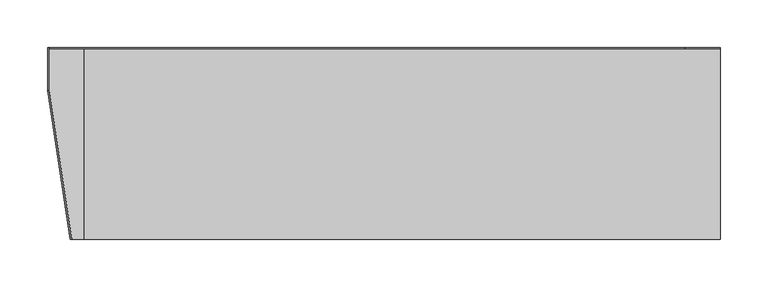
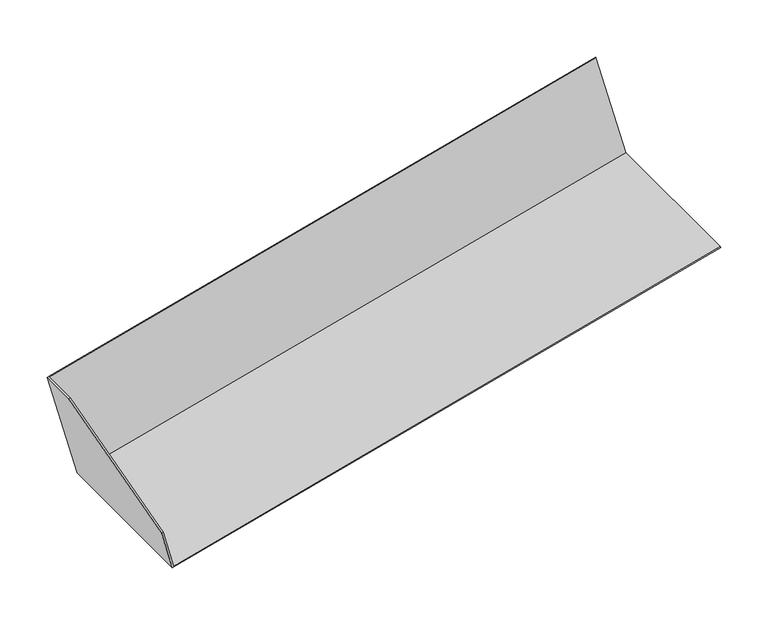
"""IFC4 building model written with IfcOpenShell, lengths in millimetres: proxy geometry, Roof B - Apron Diverter1 : Roof B - Apron Diverter."""

import ifcopenshell
import ifcopenshell.guid

model = None  # the IFC model being written
_history = None  # IfcOwnerHistory: only IFC2X3 demands one
_inside = {}  # id of a spatial element -> (the spatial element, [elements in it])
_under = {}  # id of a project, library or spatial element -> (it, [spatial elements below it])
_declared = {}  # id of a project -> (the project, [libraries it declares])
_typed = {}  # id of a type object -> (the type object, [elements of that type])
_made_of = {}  # id of a material, layer set ... -> (it, [elements and type objects made of it])


def new_model(schema):
    """Start an empty IFC model of exactly this schema.

    Asked for "IFC4X3", IfcOpenShell would pick the latest addendum, in which some entities
    have other attributes; the version numbers below select the first issue.
    IFC2X3 requires an IfcOwnerHistory on every rooted entity: one is made here for all.
    """
    global model, _history
    if schema == "IFC4X3":
        model = ifcopenshell.file(schema_version=(4, 3, 0, 0))
    else:
        model = ifcopenshell.file(schema=schema)
    _inside.clear()
    _under.clear()
    _declared.clear()
    _typed.clear()
    _made_of.clear()
    _history = None
    if model.schema == "IFC2X3":
        org = make("IfcOrganization", Name="unknown")
        user = make(
            "IfcPersonAndOrganization",
            ThePerson=make("IfcPerson", FamilyName="unknown"),
            TheOrganization=org,
        )
        app = make(
            "IfcApplication",
            ApplicationDeveloper=org,
            Version="unknown",
            ApplicationFullName="unknown",
            ApplicationIdentifier="unknown",
        )
        _history = make(
            "IfcOwnerHistory",
            OwningUser=user,
            OwningApplication=app,
            ChangeAction="ADDED",
            CreationDate=0,
        )
    return model


def make(cls, **values):
    """One entity of the class cls with the attributes given. An attribute that is None is left unset."""
    return model.create_entity(
        cls, **{name: value for name, value in values.items() if value is not None}
    )


def rooted(cls, **values):
    """An entity with a GlobalId (a new one), such as an element, a storey or a relation."""
    return make(cls, GlobalId=ifcopenshell.guid.new(), OwnerHistory=_history, **values)


def si_unit(unit_type, name, prefix=None):
    """IfcSIUnit, for example si_unit("LENGTHUNIT", "METRE", prefix="MILLI")."""
    return make("IfcSIUnit", UnitType=unit_type, Prefix=prefix, Name=name)


def assignment(units):
    """IfcUnitAssignment: the units of a project."""
    return None if units is None else make("IfcUnitAssignment", Units=units)


def point(xyz):
    """IfcCartesianPoint."""
    return None if xyz is None else make("IfcCartesianPoint", Coordinates=xyz)


def direction(xyz):
    """IfcDirection."""
    return None if xyz is None else make("IfcDirection", DirectionRatios=xyz)


def frame(location, z_axis=None, x_axis=None):
    """IfcAxis2Placement3D, a coordinate frame: its origin and axes. An axis left out is left unset."""
    return make(
        "IfcAxis2Placement3D",
        Location=point(location),
        Axis=direction(z_axis),
        RefDirection=direction(x_axis),
    )


def origin():
    """The frame at (0, 0, 0) with its axes left unset."""
    return frame((0.0, 0.0, 0.0))


def place(relative_to, where):
    """IfcLocalPlacement: puts the frame where relative to a parent placement (None: the world)."""
    return make(
        "IfcLocalPlacement", PlacementRelTo=relative_to, RelativePlacement=where
    )


def context(
    kind, dimensions, precision=None, world=None, true_north=None, identifier=None
):
    """IfcGeometricRepresentationContext, for example the 3D "Model" context."""
    return make(
        "IfcGeometricRepresentationContext",
        ContextIdentifier=identifier,
        ContextType=kind,
        CoordinateSpaceDimension=dimensions,
        Precision=precision,
        WorldCoordinateSystem=world,
        TrueNorth=true_north,
    )


def project(units=None, contexts=None):
    """IfcProject with its units and contexts."""
    return rooted(
        "IfcProject",
        Name="project",
        RepresentationContexts=contexts,
        UnitsInContext=assignment(units),
    )


def spatial(cls, under=None, at=None, **own):
    """A site, building, storey or space (cls), placed at a placement, below another one or the project."""
    s = rooted(cls, ObjectPlacement=at, **own)
    if under is not None:
        _under.setdefault(under.id(), (under, []))[1].append(s)
    return s


def polyline(points):
    """IfcPolyline through the points."""
    return make("IfcPolyline", Points=[point(p) for p in points])


def outline(outer, holes=None, kind="AREA"):
    """IfcArbitraryClosedProfileDef: a profile drawn as a closed curve; with holes, ...WithVoids."""
    if holes is None:
        return make("IfcArbitraryClosedProfileDef", ProfileType=kind, OuterCurve=outer)
    return make(
        "IfcArbitraryProfileDefWithVoids",
        ProfileType=kind,
        OuterCurve=outer,
        InnerCurves=holes,
    )


def extrude(swept, where, along, depth):
    """IfcExtrudedAreaSolid: the profile swept, set in the frame where, extruded along a direction by depth."""
    return make(
        "IfcExtrudedAreaSolid",
        SweptArea=swept,
        Position=where,
        ExtrudedDirection=direction(along),
        Depth=depth,
    )


def shape(context_of_items, identifier, shape_type, items):
    """IfcShapeRepresentation: the items that make up one representation, for example the "Body"."""
    return make(
        "IfcShapeRepresentation",
        ContextOfItems=context_of_items,
        RepresentationIdentifier=identifier,
        RepresentationType=shape_type,
        Items=items,
    )


def source(mapping_origin, context_of_items, identifier, shape_type, items):
    """IfcRepresentationMap: a shape defined once, which mapped items show again and again."""
    return make(
        "IfcRepresentationMap",
        MappingOrigin=mapping_origin,
        MappedRepresentation=shape(context_of_items, identifier, shape_type, items),
    )


def transform(
    local_origin,
    x_axis=None,
    y_axis=None,
    z_axis=None,
    scale=None,
    scale2=None,
    scale3=None,
    uniform=True,
):
    """IfcCartesianTransformationOperator3D, or its non-uniform kind. x_axis, y_axis, z_axis: its Axis1, 2, 3."""
    if uniform:
        return make(
            "IfcCartesianTransformationOperator3D",
            Axis1=direction(x_axis),
            Axis2=direction(y_axis),
            LocalOrigin=point(local_origin),
            Scale=scale,
            Axis3=direction(z_axis),
        )
    return make(
        "IfcCartesianTransformationOperator3DnonUniform",
        Axis1=direction(x_axis),
        Axis2=direction(y_axis),
        LocalOrigin=point(local_origin),
        Scale=scale,
        Axis3=direction(z_axis),
        Scale2=scale2,
        Scale3=scale3,
    )


def mapped(mapping_source, mapping_target):
    """IfcMappedItem: shows the shape of a source again, moved by a transform."""
    return make(
        "IfcMappedItem", MappingSource=mapping_source, MappingTarget=mapping_target
    )


def made_of(thing, what):
    """Note that an element or type object is made of a material, layer set ...; save() writes the relation."""
    if what is not None:
        _made_of.setdefault(what.id(), (what, []))[1].append(thing)
    return thing


def element(
    cls,
    number,
    at=None,
    inside=None,
    cuts=None,
    type_object=None,
    material=None,
    context=None,
    identifier="Body",
    shape_type=None,
    held_by="IfcProductDefinitionShape",
    body=None,
    shapes=None,
    **own,
):
    """One element of the class cls, such as IfcWall. Its Tag is "e" and its number.

    at: its placement. inside: the storey or other place that contains it. cuts: it is an
    opening in that element (IfcRelVoidsElement). A single representation is given by context,
    identifier, shape_type and body (its items); several are given by shapes. held_by: the class
    of the entity that holds the representations. save() writes the other relations.
    """
    e = rooted(cls, Tag="e%d" % number, ObjectPlacement=at, **own)
    if body is not None:
        shapes = [shape(context, identifier, shape_type, body)]
    if shapes is not None:
        e.Representation = make(held_by, Representations=shapes)
    if inside is not None:
        _inside.setdefault(inside.id(), (inside, []))[1].append(e)
    if cuts is not None:
        rooted(
            "IfcRelVoidsElement", RelatingBuildingElement=cuts, RelatedOpeningElement=e
        )
    if type_object is not None:
        _typed.setdefault(type_object.id(), (type_object, []))[1].append(e)
    return made_of(e, material)


def aggregate(whole, parts):
    """IfcRelAggregates: a whole, such as a stair, and the parts it consists of."""
    return rooted("IfcRelAggregates", RelatingObject=whole, RelatedObjects=parts)


def save(model, path):
    """Write the relations noted so far, then the file.

    IfcRelAggregates (storeys below a building ...), IfcRelContainedInSpatialStructure (elements
    in a storey), IfcRelDefinesByType, IfcRelAssociatesMaterial and IfcRelDeclares: one each for
    every whole, place, type object, material and project.
    """
    for whole, parts in _under.values():
        aggregate(whole, parts)
    for where, things in _inside.values():
        rooted(
            "IfcRelContainedInSpatialStructure",
            RelatedElements=things,
            RelatingStructure=where,
        )
    for kind, things in _typed.values():
        rooted("IfcRelDefinesByType", RelatedObjects=things, RelatingType=kind)
    for what, things in _made_of.values():
        rooted("IfcRelAssociatesMaterial", RelatedObjects=things, RelatingMaterial=what)
    for by, libraries in _declared.values():
        rooted("IfcRelDeclares", RelatingContext=by, RelatedDefinitions=libraries)
    model.write(path)


def generic_models_1df02112(model_context):
    return source(origin(), model_context, "Body", "SweptSolid", [
        extrude(outline(polyline([(0.0, 0.0), (50.6372232, 0.0), (141.0, -155.70776), (141.0, -201.0), (0.0, -201.0), (0.0, 0.0)])), frame((-16425.3137549, -22269.1704124, 3250.912136), z_axis=(0.9659258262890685, 0.0, 0.2588190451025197), x_axis=(-0.2588190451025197, 0.0, 0.9659258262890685)), (0.0, 0.0, 1.0), 1.7645355),
        extrude(outline(polyline([(-192.5, -2.8427894), (7.5, -2.8427894), (7.5, 137.1572106), (8.5, 137.1572106), (8.5, -3.8427894), (-192.5, -3.8427894), (-192.5, -2.8427894)])), frame((-16424.6039316, -22076.6704124, 3255.0806809), z_axis=(0.9659258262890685, 0.0, 0.2588190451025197), x_axis=(0.0, 1.0, 0.0)), (0.0, 0.0, 1.0), 690.0),
    ])


if __name__ == "__main__":
    model = new_model("IFC4")
    model_context = context("Model", 3, world=origin())
    ifc_project = project(units=[si_unit("LENGTHUNIT", "METRE", prefix="MILLI")], contexts=[model_context])
    site = spatial("IfcSite", under=ifc_project)
    building = spatial("IfcBuilding", under=site)
    placement = place(None, origin())
    generic_models_shape = generic_models_1df02112(model_context)
    element("IfcBuildingElementProxy", 1, Name="Roof B - Apron Diverter1 : Roof B - Apron Diverter", ObjectType="Roof B - Apron Diverter1 : Roof B - Apron Diverter", at=placement, inside=building, context=model_context, shape_type="MappedRepresentation", body=[
        mapped(generic_models_shape, transform((0.0, 0.0, 0.0), x_axis=(1.0, 0.0, 0.0), y_axis=(0.0, 1.0, 0.0), z_axis=(0.0, 0.0, 1.0))),
    ])
    save(model, "model.ifc")
